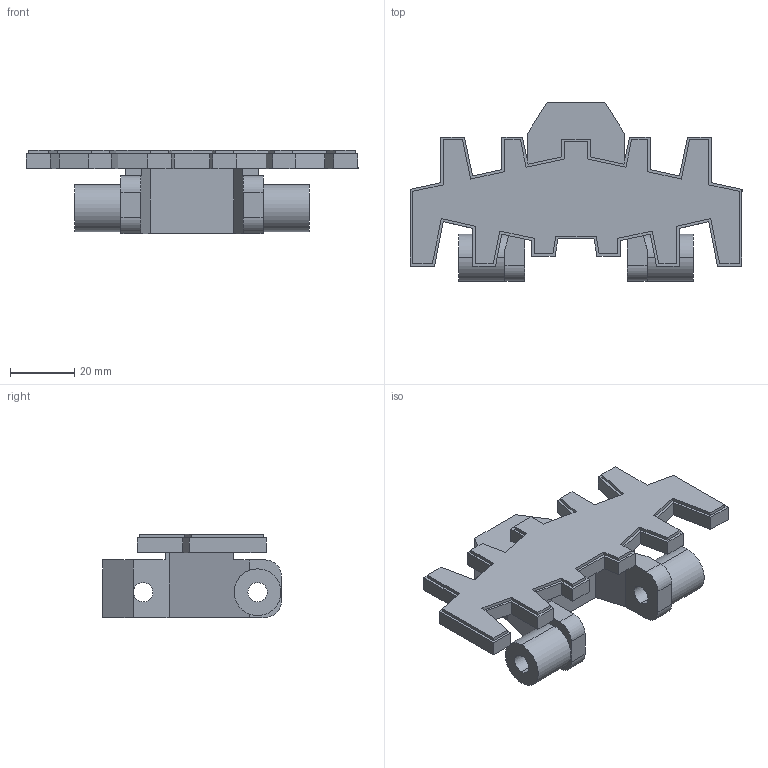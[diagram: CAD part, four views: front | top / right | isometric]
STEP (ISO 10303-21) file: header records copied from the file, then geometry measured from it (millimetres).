
FILE_DESCRIPTION (( 'STEP AP214' ), '1' );
FILE_NAME ('FCFT-5A.STEP', '2011-07-06T07:08:00', ( '.' ), ( '' ), 'SwSTEP 2.0', 'SolidWorks 2010', '' );
FILE_SCHEMA (( 'AUTOMOTIVE_DESIGN' ));
Length unit declared in the file: millimetre
Products named in the file (1): FCFT-5A
Bounding box: 103 x 55.39 x 25.75 mm (x, y, z)
Volume: 40251 mm3; surface area: 16099.9 mm2
Topology: 1 solids, 1 shells, 130 faces, 378 edges, 252 vertices
Faces by surface type: plane 116, cylinder 14
Entity records: 4773 total; most frequent: CARTESIAN_POINT 767, ORIENTED_EDGE 756, DIRECTION 668, EDGE_CURVE 378, LINE 346, VECTOR 346, VERTEX_POINT 252, AXIS2_PLACEMENT_3D 161
